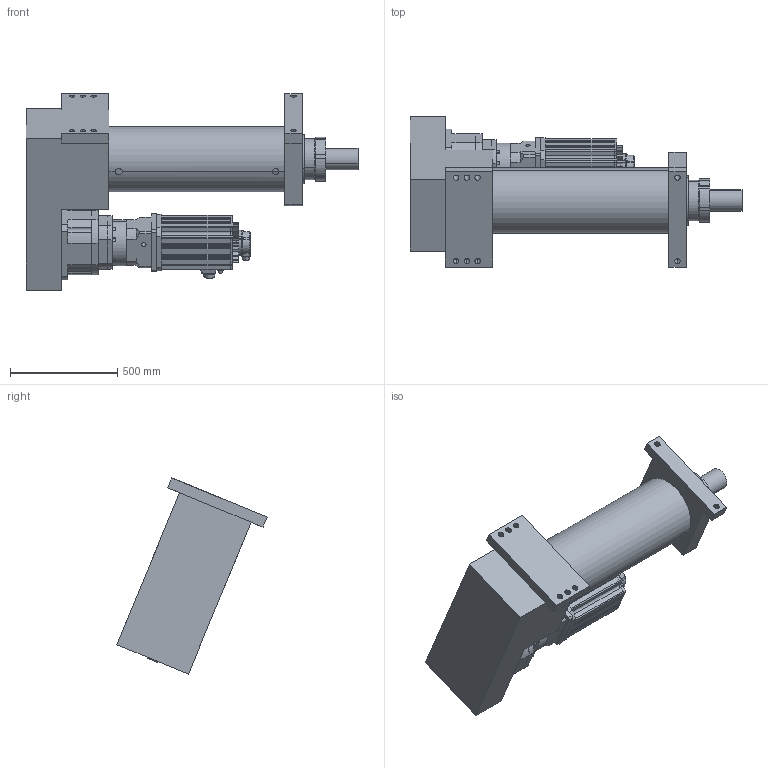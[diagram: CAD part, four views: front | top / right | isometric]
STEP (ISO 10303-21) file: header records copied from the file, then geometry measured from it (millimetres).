
FILE_DESCRIPTION (( 'STEP AP203' ), '1' );
FILE_NAME ('S12殏殿耜醱假蚾.STEP', '2024-08-16T07:02:47', ( '' ), ( '' ), 'SwSTEP 2.0', 'SolidWorks 2018', '' );
FILE_SCHEMA (( 'CONFIG_CONTROL_DESIGN' ));
Length unit declared in the file: millimetre
Products named in the file (4): S12殏殿耜醱; PLX280-L3 42-200-235-M12; ECMA-F1221BS3-220框號系列機種-11KW高慣量系列; S12殏殿耜醱假蚾
Assembly tree (3 placements, depth 2):
  S12殏殿耜醱假蚾
    PLX280-L3 42-200-235-M12
    S12殏殿耜醱
    ECMA-F1221BS3-220框號系列機種-11KW高慣量系列
Bounding box: 1545 x 699.38 x 913.62 mm (x, y, z)
Volume: 176009700.8 mm3; surface area: 4317183.8 mm2
Topology: 7 solids, 13 shells, 1196 faces, 3124 edges, 2013 vertices
Faces by surface type: cylinder 522, plane 506, cone 129, bspline 18, torus 13, sphere 8
Entity records: 39973 total; most frequent: CARTESIAN_POINT 9941, DIRECTION 6308, ORIENTED_EDGE 5880, EDGE_CURVE 3082, AXIS2_PLACEMENT_3D 2365, VERTEX_POINT 2013, LINE 1578, VECTOR 1578
